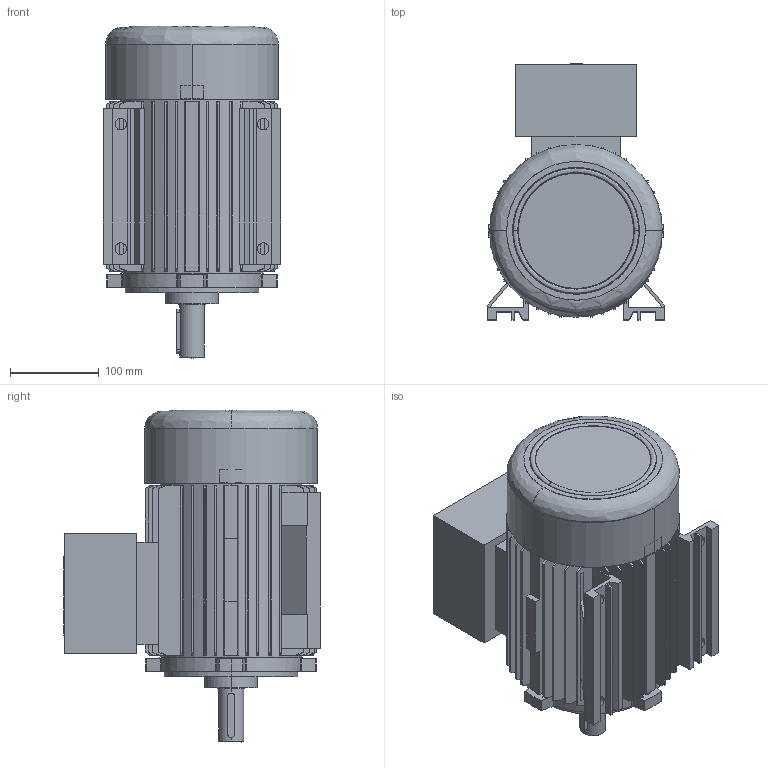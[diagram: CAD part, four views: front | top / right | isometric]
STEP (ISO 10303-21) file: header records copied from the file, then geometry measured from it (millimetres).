
FILE_DESCRIPTION (( 'STEP AP214' ), '1' );
FILE_NAME ('20.17500-A 5AT 100 B3 Exde STANDK.STEP', '2018-05-08T06:04:33', ( '' ), ( '' ), 'SwSTEP 2.0', 'SolidWorks 2017', '' );
FILE_SCHEMA (( 'AUTOMOTIVE_DESIGN' ));
Length unit declared in the file: millimetre
Products named in the file (1): 20.17500-A 5AT 100 B3 Exde STANDK
Bounding box: 200 x 288 x 373.3 mm (x, y, z)
Volume: 4558006.7 mm3; surface area: 877341.9 mm2
Topology: 3 solids, 3 shells, 715 faces, 1865 edges, 1214 vertices
Faces by surface type: plane 413, cylinder 149, cone 135, bspline 18
Entity records: 23951 total; most frequent: CARTESIAN_POINT 6339, ORIENTED_EDGE 3698, DIRECTION 3575, EDGE_CURVE 1849, AXIS2_PLACEMENT_3D 1270, VERTEX_POINT 1214, VECTOR 1035, LINE 1035
